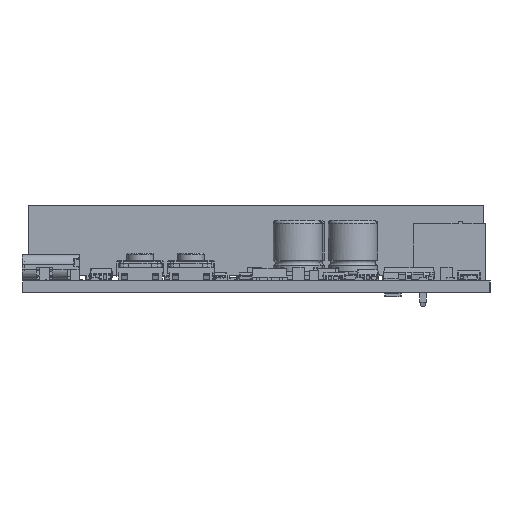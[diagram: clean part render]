
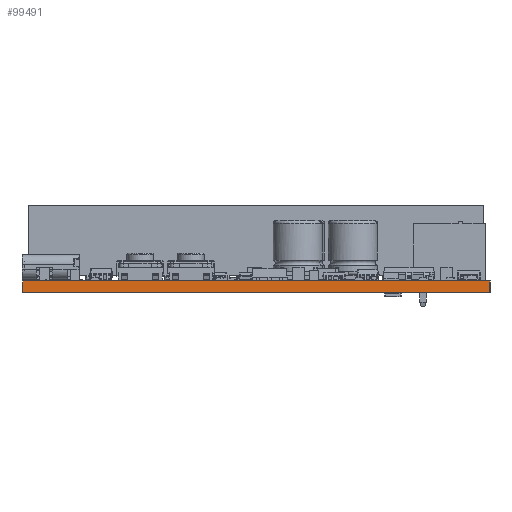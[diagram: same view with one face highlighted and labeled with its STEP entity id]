
A CAD part, left-side view. The second image highlights one B-rep face of the part: STEP entity #99491.
In plain terms, the highlighted planar face has unit normal (-1, 0, 0).
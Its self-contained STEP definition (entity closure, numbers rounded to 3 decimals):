
#99435 = VERTEX_POINT('',#99436);
#99436 = CARTESIAN_POINT('',(115.5,-127.5,1.51));
#99442 = EDGE_CURVE('',#99443,#99435,#99445,.T.);
#99443 = VERTEX_POINT('',#99444);
#99444 = CARTESIAN_POINT('',(115.5,-127.5,0.));
#99445 = LINE('',#99446,#99447);
#99446 = CARTESIAN_POINT('',(115.5,-127.5,0.));
#99447 = VECTOR('',#99448,1.);
#99448 = DIRECTION('',(0.,0.,1.));
#99491 = ADVANCED_FACE('',(#99492),#99517,.T.);
#99492 = FACE_BOUND('',#99493,.T.);
#99493 = EDGE_LOOP('',(#99494,#99495,#99503,#99511));
#99494 = ORIENTED_EDGE('',*,*,#99442,.T.);
#99495 = ORIENTED_EDGE('',*,*,#99496,.T.);
#99496 = EDGE_CURVE('',#99435,#99497,#99499,.T.);
#99497 = VERTEX_POINT('',#99498);
#99498 = CARTESIAN_POINT('',(115.5,-67.5,1.51));
#99499 = LINE('',#99500,#99501);
#99500 = CARTESIAN_POINT('',(115.5,-127.5,1.51));
#99501 = VECTOR('',#99502,1.);
#99502 = DIRECTION('',(0.,1.,0.));
#99503 = ORIENTED_EDGE('',*,*,#99504,.F.);
#99504 = EDGE_CURVE('',#99505,#99497,#99507,.T.);
#99505 = VERTEX_POINT('',#99506);
#99506 = CARTESIAN_POINT('',(115.5,-67.5,0.));
#99507 = LINE('',#99508,#99509);
#99508 = CARTESIAN_POINT('',(115.5,-67.5,0.));
#99509 = VECTOR('',#99510,1.);
#99510 = DIRECTION('',(0.,0.,1.));
#99511 = ORIENTED_EDGE('',*,*,#99512,.F.);
#99512 = EDGE_CURVE('',#99443,#99505,#99513,.T.);
#99513 = LINE('',#99514,#99515);
#99514 = CARTESIAN_POINT('',(115.5,-127.5,0.));
#99515 = VECTOR('',#99516,1.);
#99516 = DIRECTION('',(0.,1.,0.));
#99517 = PLANE('',#99518);
#99518 = AXIS2_PLACEMENT_3D('',#99519,#99520,#99521);
#99519 = CARTESIAN_POINT('',(115.5,-127.5,0.));
#99520 = DIRECTION('',(-1.,0.,0.));
#99521 = DIRECTION('',(0.,1.,0.));
